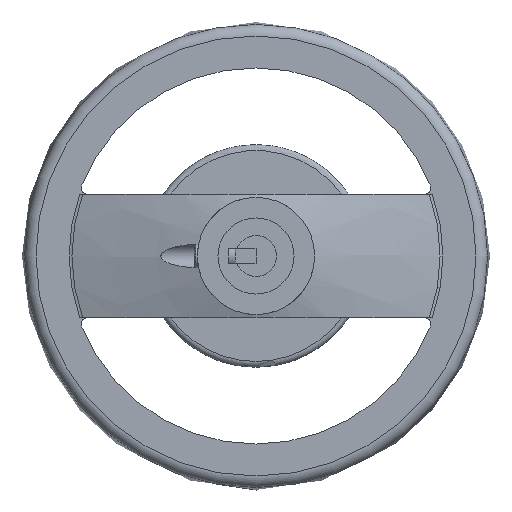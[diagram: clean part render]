
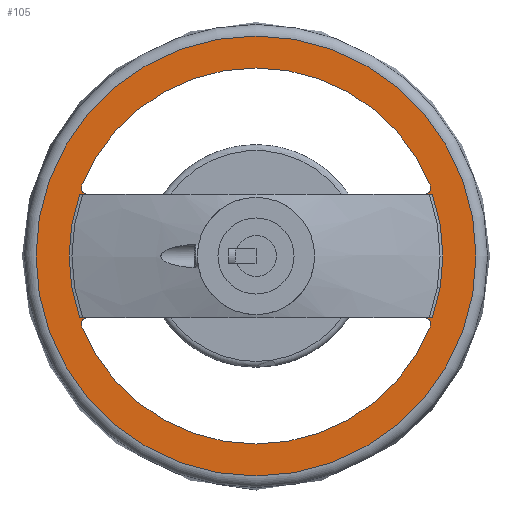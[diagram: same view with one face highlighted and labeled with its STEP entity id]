
A CAD part, left-side view. The second image highlights one B-rep face of the part: STEP entity #105.
In plain terms, the highlighted planar face has unit normal (-1, 0, 0).
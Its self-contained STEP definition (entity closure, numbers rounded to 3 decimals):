
#105 = ADVANCED_FACE( '', ( #227, #228, #229, #230 ), #231, .F. );
#227 = FACE_BOUND( '', #413, .T. );
#228 = FACE_BOUND( '', #414, .T. );
#229 = FACE_OUTER_BOUND( '', #415, .T. );
#230 = FACE_BOUND( '', #416, .T. );
#231 = PLANE( '', #417 );
#413 = EDGE_LOOP( '', ( #774, #775, #776, #777 ) );
#414 = EDGE_LOOP( '', ( #778, #779, #780, #781 ) );
#415 = EDGE_LOOP( '', ( #782 ) );
#416 = EDGE_LOOP( '', ( #783, #784, #785, #786 ) );
#417 = AXIS2_PLACEMENT_3D( '', #787, #788, #789 );
#774 = ORIENTED_EDGE( '', *, *, #1180, .F. );
#775 = ORIENTED_EDGE( '', *, *, #1108, .F. );
#776 = ORIENTED_EDGE( '', *, *, #1112, .F. );
#777 = ORIENTED_EDGE( '', *, *, #1181, .F. );
#778 = ORIENTED_EDGE( '', *, *, #1182, .F. );
#779 = ORIENTED_EDGE( '', *, *, #1170, .F. );
#780 = ORIENTED_EDGE( '', *, *, #1183, .F. );
#781 = ORIENTED_EDGE( '', *, *, #1184, .F. );
#782 = ORIENTED_EDGE( '', *, *, #1185, .T. );
#783 = ORIENTED_EDGE( '', *, *, #1186, .F. );
#784 = ORIENTED_EDGE( '', *, *, #1187, .F. );
#785 = ORIENTED_EDGE( '', *, *, #1188, .F. );
#786 = ORIENTED_EDGE( '', *, *, #1127, .F. );
#787 = CARTESIAN_POINT( '', ( 26., -75.109, 0. ) );
#788 = DIRECTION( '', ( 1., 0., 0. ) );
#789 = DIRECTION( '', ( 0., 0., -1. ) );
#1108 = EDGE_CURVE( '', #1282, #1284, #1285, .T. );
#1112 = EDGE_CURVE( '', #1289, #1282, #1291, .T. );
#1127 = EDGE_CURVE( '', #1317, #1319, #1320, .T. );
#1170 = EDGE_CURVE( '', #1391, #1393, #1394, .T. );
#1180 = EDGE_CURVE( '', #1284, #1410, #1411, .T. );
#1181 = EDGE_CURVE( '', #1410, #1289, #1412, .T. );
#1182 = EDGE_CURVE( '', #1393, #1413, #1414, .F. );
#1183 = EDGE_CURVE( '', #1415, #1391, #1416, .F. );
#1184 = EDGE_CURVE( '', #1413, #1415, #1417, .F. );
#1185 = EDGE_CURVE( '', #1418, #1418, #1419, .T. );
#1186 = EDGE_CURVE( '', #1420, #1317, #1421, .F. );
#1187 = EDGE_CURVE( '', #1422, #1420, #1423, .F. );
#1188 = EDGE_CURVE( '', #1319, #1422, #1424, .F. );
#1282 = VERTEX_POINT( '', #1624 );
#1284 = VERTEX_POINT( '', #1631 );
#1285 = LINE( '', #1632, #1633 );
#1289 = VERTEX_POINT( '', #1642 );
#1291 = CIRCLE( '', #1649, 63.814 );
#1317 = VERTEX_POINT( '', #1739 );
#1319 = VERTEX_POINT( '', #1742 );
#1320 = LINE( '', #1743, #1744 );
#1391 = VERTEX_POINT( '', #2063 );
#1393 = VERTEX_POINT( '', #2066 );
#1394 = LINE( '', #2067, #2068 );
#1410 = VERTEX_POINT( '', #2089 );
#1411 = CIRCLE( '', #2090, 63.814 );
#1412 = LINE( '', #2091, #2092 );
#1413 = VERTEX_POINT( '', #2093 );
#1414 = CIRCLE( '', #2094, 2. );
#1415 = VERTEX_POINT( '', #2095 );
#1416 = CIRCLE( '', #2096, 2. );
#1417 = CIRCLE( '', #2097, 64.2 );
#1418 = VERTEX_POINT( '', #2098 );
#1419 = CIRCLE( '', #2099, 75.109 );
#1420 = VERTEX_POINT( '', #2100 );
#1421 = CIRCLE( '', #2101, 2. );
#1422 = VERTEX_POINT( '', #2102 );
#1423 = CIRCLE( '', #2103, 64.2 );
#1424 = CIRCLE( '', #2104, 2. );
#1624 = CARTESIAN_POINT( '', ( 26., 60.208, -21.149 ) );
#1631 = CARTESIAN_POINT( '', ( 26., -60.208, -21.149 ) );
#1632 = CARTESIAN_POINT( '', ( 26., 160., -21.149 ) );
#1633 = VECTOR( '', #2265, 1000. );
#1642 = CARTESIAN_POINT( '', ( 26., 60.208, 21.149 ) );
#1649 = AXIS2_PLACEMENT_3D( '', #2269, #2270, #2271 );
#1739 = CARTESIAN_POINT( '', ( 26., 57.731, 21.15 ) );
#1742 = CARTESIAN_POINT( '', ( 26., -57.731, 21.15 ) );
#1743 = CARTESIAN_POINT( '', ( 26., -75.109, 21.15 ) );
#1744 = VECTOR( '', #2290, 1000. );
#2063 = CARTESIAN_POINT( '', ( 26., -57.731, -21.15 ) );
#2066 = CARTESIAN_POINT( '', ( 26., 57.731, -21.15 ) );
#2067 = CARTESIAN_POINT( '', ( 26., -75.109, -21.15 ) );
#2068 = VECTOR( '', #2353, 1000. );
#2089 = CARTESIAN_POINT( '', ( 26., -60.208, 21.149 ) );
#2090 = AXIS2_PLACEMENT_3D( '', #2371, #2372, #2373 );
#2091 = CARTESIAN_POINT( '', ( 26., -160., 21.149 ) );
#2092 = VECTOR( '', #2374, 1000. );
#2093 = CARTESIAN_POINT( '', ( 26., 59.588, -23.894 ) );
#2094 = AXIS2_PLACEMENT_3D( '', #2375, #2376, #2377 );
#2095 = CARTESIAN_POINT( '', ( 26., -59.588, -23.894 ) );
#2096 = AXIS2_PLACEMENT_3D( '', #2378, #2379, #2380 );
#2097 = AXIS2_PLACEMENT_3D( '', #2381, #2382, #2383 );
#2098 = CARTESIAN_POINT( '', ( 26., 0., 75.109 ) );
#2099 = AXIS2_PLACEMENT_3D( '', #2384, #2385, #2386 );
#2100 = CARTESIAN_POINT( '', ( 26., 59.588, 23.894 ) );
#2101 = AXIS2_PLACEMENT_3D( '', #2387, #2388, #2389 );
#2102 = CARTESIAN_POINT( '', ( 26., -59.588, 23.894 ) );
#2103 = AXIS2_PLACEMENT_3D( '', #2390, #2391, #2392 );
#2104 = AXIS2_PLACEMENT_3D( '', #2393, #2394, #2395 );
#2265 = DIRECTION( '', ( 0., -1., 0. ) );
#2269 = CARTESIAN_POINT( '', ( 26., 0., 0. ) );
#2270 = DIRECTION( '', ( -1., 0., 0. ) );
#2271 = DIRECTION( '', ( 0., 0., 1. ) );
#2290 = DIRECTION( '', ( 0., -1., 0. ) );
#2353 = DIRECTION( '', ( 0., 1., 0. ) );
#2371 = CARTESIAN_POINT( '', ( 26., 0., 0. ) );
#2372 = DIRECTION( '', ( -1., 0., 0. ) );
#2373 = DIRECTION( '', ( 0., 0., 1. ) );
#2374 = DIRECTION( '', ( 0., 1., 0. ) );
#2375 = CARTESIAN_POINT( '', ( 26., 57.731, -23.15 ) );
#2376 = DIRECTION( '', ( 1., 0., 0. ) );
#2377 = DIRECTION( '', ( 0., 0., -1. ) );
#2378 = CARTESIAN_POINT( '', ( 26., -57.731, -23.15 ) );
#2379 = DIRECTION( '', ( 1., 0., 0. ) );
#2380 = DIRECTION( '', ( 0., 0., -1. ) );
#2381 = CARTESIAN_POINT( '', ( 26., 0., 0. ) );
#2382 = DIRECTION( '', ( 1., 0., 0. ) );
#2383 = DIRECTION( '', ( 0., 0., -1. ) );
#2384 = CARTESIAN_POINT( '', ( 26., 0., 0. ) );
#2385 = DIRECTION( '', ( -1., 0., 0. ) );
#2386 = DIRECTION( '', ( 0., 0., 1. ) );
#2387 = CARTESIAN_POINT( '', ( 26., 57.731, 23.15 ) );
#2388 = DIRECTION( '', ( 1., 0., 0. ) );
#2389 = DIRECTION( '', ( 0., 0., -1. ) );
#2390 = CARTESIAN_POINT( '', ( 26., 0., 0. ) );
#2391 = DIRECTION( '', ( 1., 0., 0. ) );
#2392 = DIRECTION( '', ( 0., 0., -1. ) );
#2393 = CARTESIAN_POINT( '', ( 26., -57.731, 23.15 ) );
#2394 = DIRECTION( '', ( 1., 0., 0. ) );
#2395 = DIRECTION( '', ( 0., 0., -1. ) );
